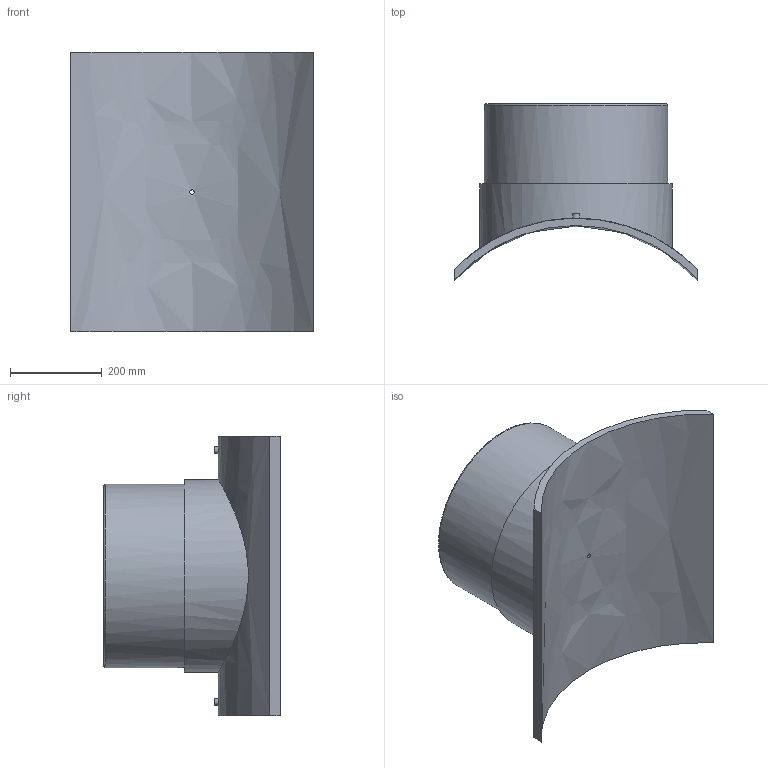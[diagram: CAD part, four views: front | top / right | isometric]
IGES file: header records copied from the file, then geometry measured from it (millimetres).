
Global section: file name: 495803710400T; native system: Autodesk Inventor 2019; preprocessor: unknown; author: KIM; date: 20240404.115654; units: millimetre
Bounding box: 530 x 384.78 x 610 mm (x, y, z)
Volume: 19527998.2 mm3; surface area: 1407720.4 mm2
Topology: 1 solids, 1 shells, 29 faces, 60 edges, 43 vertices
Faces by surface type: bspline 29
